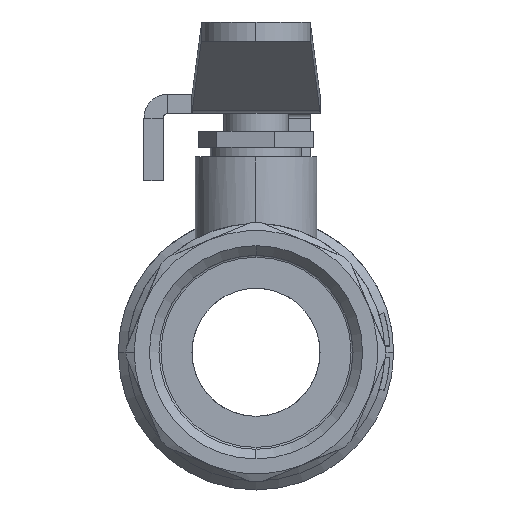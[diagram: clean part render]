
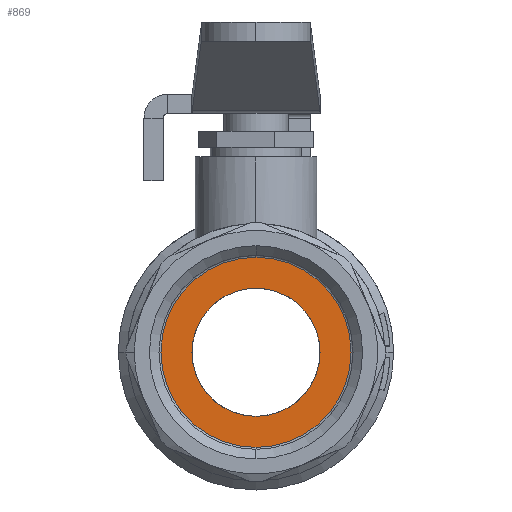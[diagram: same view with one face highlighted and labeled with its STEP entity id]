
A CAD part, left-side view. The second image highlights one B-rep face of the part: STEP entity #869.
In plain terms, the highlighted planar face has unit normal (-1, 0, 0).
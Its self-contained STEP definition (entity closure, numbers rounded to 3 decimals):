
#205=PLANE('',#6988);
#869=ADVANCED_FACE('',(#1908,#1909),#205,.T.);
#1607=CIRCLE('',#6845,10.);
#1610=CIRCLE('',#6849,14.845);
#1679=CIRCLE('',#6985,14.845);
#1680=CIRCLE('',#6987,10.);
#1908=FACE_BOUND('',#2054,.T.);
#1909=FACE_BOUND('',#2055,.T.);
#2054=EDGE_LOOP('',(#2916,#2917));
#2055=EDGE_LOOP('',(#2918,#2919));
#2916=ORIENTED_EDGE('',*,*,#5339,.T.);
#2917=ORIENTED_EDGE('',*,*,#5161,.T.);
#2918=ORIENTED_EDGE('',*,*,#5338,.F.);
#2919=ORIENTED_EDGE('',*,*,#5166,.F.);
#4523=VERTEX_POINT('',#10126);
#4524=VERTEX_POINT('',#10127);
#4527=VERTEX_POINT('',#10135);
#4528=VERTEX_POINT('',#10137);
#5161=EDGE_CURVE('',#4523,#4524,#1607,.T.);
#5166=EDGE_CURVE('',#4527,#4528,#1610,.T.);
#5338=EDGE_CURVE('',#4528,#4527,#1679,.T.);
#5339=EDGE_CURVE('',#4524,#4523,#1680,.T.);
#6845=AXIS2_PLACEMENT_3D('',#10125,#7618,#7619);
#6849=AXIS2_PLACEMENT_3D('',#10136,#7628,#7629);
#6985=AXIS2_PLACEMENT_3D('',#10579,#7975,#7976);
#6987=AXIS2_PLACEMENT_3D('',#10581,#7979,#7980);
#6988=AXIS2_PLACEMENT_3D('',#10582,#7981,#7982);
#7618=DIRECTION('',(1.,0.,0.));
#7619=DIRECTION('',(0.,0.,1.));
#7628=DIRECTION('',(1.,0.,0.));
#7629=DIRECTION('',(0.,0.,1.));
#7975=DIRECTION('',(1.,0.,0.));
#7976=DIRECTION('',(0.,0.,1.));
#7979=DIRECTION('',(1.,0.,0.));
#7980=DIRECTION('',(0.,0.,1.));
#7981=DIRECTION('',(-1.,0.,0.));
#7982=DIRECTION('',(0.,0.,-1.));
#10125=CARTESIAN_POINT('',(-13.593,0.,1.164));
#10126=CARTESIAN_POINT('',(-13.593,0.,-8.836));
#10127=CARTESIAN_POINT('',(-13.593,0.,11.164));
#10135=CARTESIAN_POINT('',(-13.593,0.,-13.681));
#10136=CARTESIAN_POINT('',(-13.593,0.,1.164));
#10137=CARTESIAN_POINT('',(-13.593,0.,16.01));
#10579=CARTESIAN_POINT('',(-13.593,0.,1.164));
#10581=CARTESIAN_POINT('',(-13.593,0.,1.164));
#10582=CARTESIAN_POINT('',(-13.593,0.,11.164));
